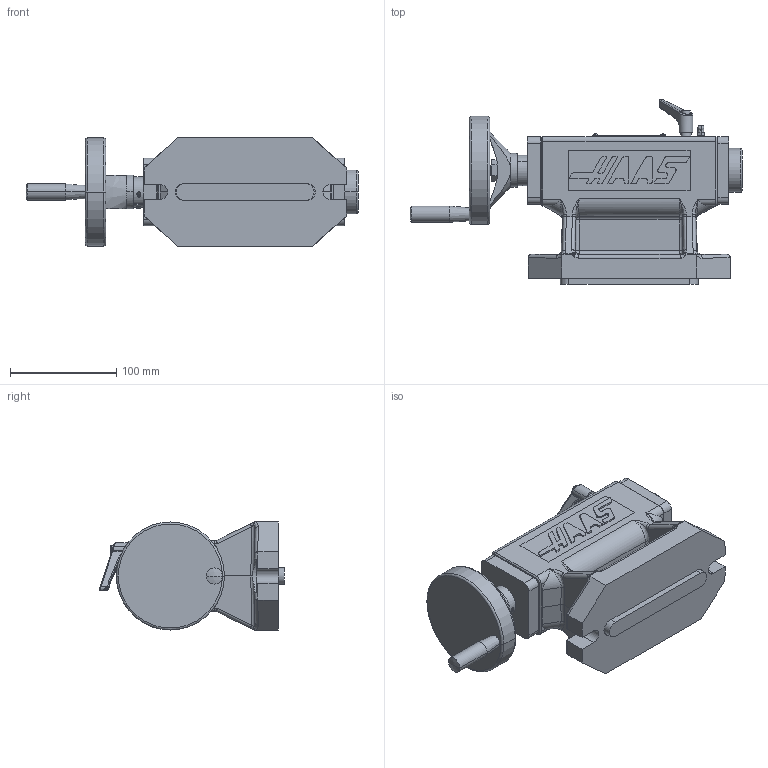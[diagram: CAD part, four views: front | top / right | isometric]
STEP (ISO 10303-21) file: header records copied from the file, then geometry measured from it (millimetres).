
FILE_DESCRIPTION (( 'STEP AP214' ), '1' );
FILE_NAME ('HTS4_STEP_2020-03.STEP', '2020-03-31T21:49:43', ( '' ), ( '' ), 'SwSTEP 2.0', 'SolidWorks 2019', '' );
FILE_SCHEMA (( 'AUTOMOTIVE_DESIGN' ));
Length unit declared in the file: inch
Products named in the file (1): HTS4_STEP_2020-03
Bounding box: 312.26 x 173.94 x 101.6 mm (x, y, z)
Volume: 1592448.2 mm3; surface area: 176050.2 mm2
Topology: 1 solids, 2 shells, 767 faces, 2070 edges, 1308 vertices
Faces by surface type: plane 294, cylinder 274, bspline 102, cone 67, sphere 20, torus 10
Entity records: 36312 total; most frequent: CARTESIAN_POINT 13088, ORIENTED_EDGE 4124, DIRECTION 3519, EDGE_CURVE 2062, VERTEX_POINT 1308, AXIS2_PLACEMENT_3D 1262, LINE 995, VECTOR 995
